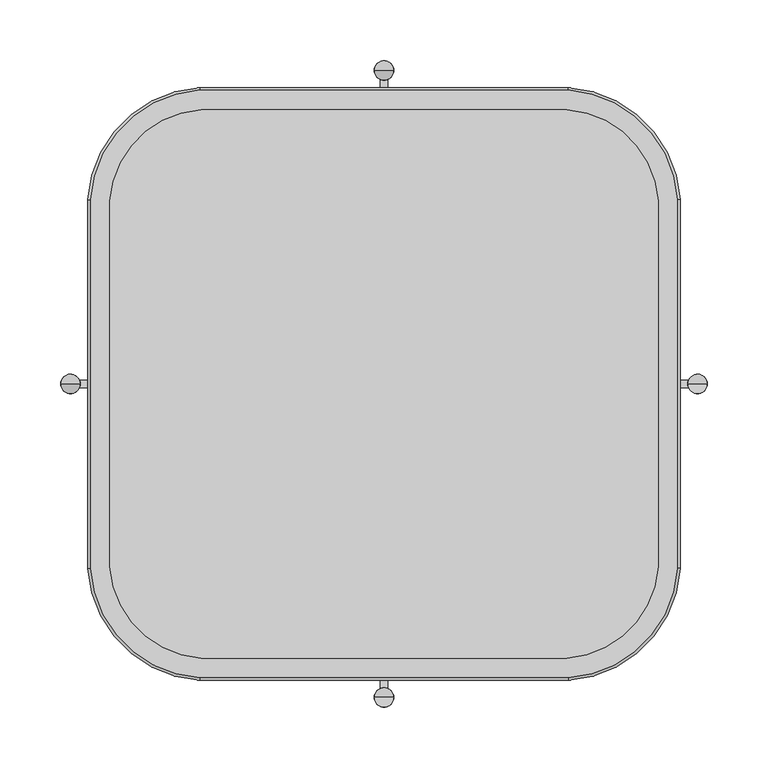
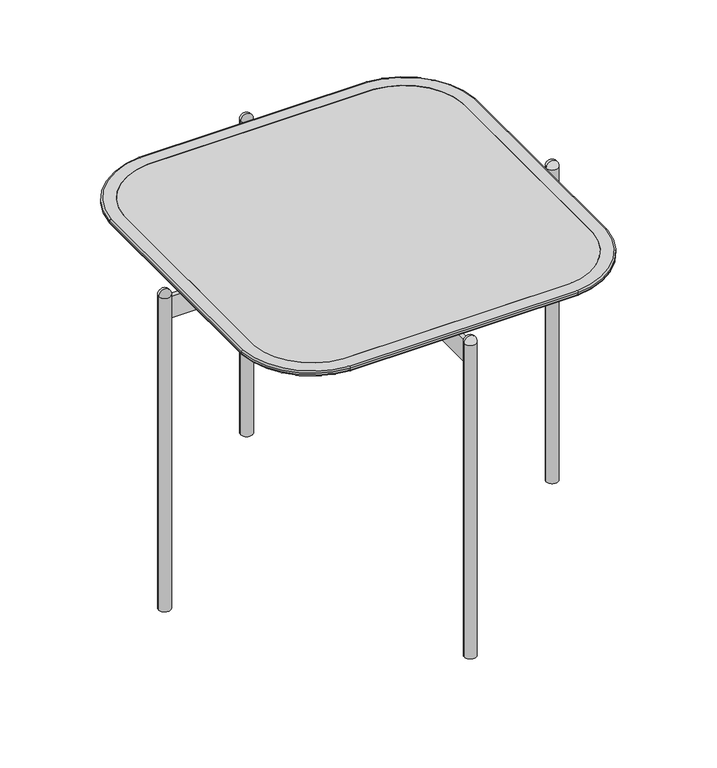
"""IFC4 building model written with IfcOpenShell, lengths in millimetres: furniture geometry, RECTANGULAR TABLE_H=45 : EI145B055050A_F."""

from ifc_helpers import new_model, si_unit, point, frame, frame_2d, origin, origin_with_axes, origin_2d, place, context, project, spatial, polyline, circle_curve, ellipse_curve, trimmed, segment, composite_curve, outline, extrude, source, transform, mapped, element, save
from ifc_brep_helpers import plane_surface, cylinder_surface, revolved_surface, advanced_brep


def furniture_46decb34(model_context):
    return source(origin(), model_context, "Body", "SolidModel", [
        advanced_brep(
        [(-225.6260809, 150.5406369, 437.6939464), (-150.5406368, 225.6260809, 437.6939464), (-150.5406368, 225.6260809, 449.6939464), (-225.6260809, 150.5406369, 449.6939464), (-232.9383111, 151.0330215, 438.0050898), (-151.0330214, 232.9383112, 438.0050898), (-150.9557407, 231.7906426, 437.6939464), (-231.7906425, 150.9557408, 437.6939464), (-242.7967567, 151.6968609, 443.7097555), (-151.6968608, 242.7967567, 443.7097555), (-243.8857957, 151.7701936, 445.4486469), (-151.7701936, 243.8857958, 445.4486469), (-243.8857957, 151.7701936, 447.6939464), (-151.7701936, 243.8857958, 447.6939464), (-241.8903147, 151.6358237, 449.6939464), (-151.6358236, 241.8903147, 449.6939464), (-225.6260809, -150.5406368, 437.6939464), (-225.6260809, -150.5406368, 449.6939464), (-232.9383111, -151.0330214, 438.0050898), (-231.7906425, -150.9557407, 437.6939464), (-242.7967567, -151.6968608, 443.7097555), (-243.8857958, -151.7701936, 445.4486469), (-243.8857958, -151.7701936, 447.6939464), (-241.8903147, -151.6358236, 449.6939464), (-150.5406368, -225.6260809, 437.6939464), (-150.5406368, -225.6260809, 449.6939464), (-151.0330214, -232.9383111, 438.0050898), (-150.9557407, -231.7906425, 437.6939464), (-151.6968608, -242.7967567, 443.7097555), (-151.7701936, -243.8857958, 445.4486469), (-151.7701936, -243.8857958, 447.6939464), (-151.6358236, -241.8903147, 449.6939464), (150.5406369, -225.6260809, 437.6939464), (150.5406369, -225.6260809, 449.6939464), (151.0330214, -232.9383111, 438.0050898), (150.9557407, -231.7906425, 437.6939464), (151.6968608, -242.7967567, 443.7097555), (151.7701936, -243.8857958, 445.4486469), (151.7701936, -243.8857958, 447.6939464), (151.6358236, -241.8903147, 449.6939464), (225.6260809, -150.5406368, 437.6939464), (225.6260809, -150.5406368, 449.6939464), (232.9383112, -151.0330214, 438.0050898), (231.7906426, -150.9557407, 437.6939464), (242.7967567, -151.6968608, 443.7097555), (243.8857958, -151.7701936, 445.4486469), (243.8857958, -151.7701936, 447.6939464), (241.8903147, -151.6358236, 449.6939464), (225.6260809, 150.5406368, 437.6939464), (225.6260809, 150.5406368, 449.6939464), (232.9383112, 151.0330214, 438.0050898), (231.7906426, 150.9557407, 437.6939464), (242.7967567, 151.6968608, 443.7097555), (243.8857958, 151.7701936, 445.4486469), (243.8857958, 151.7701936, 447.6939464), (241.8903147, 151.6358236, 449.6939464), (150.5406368, 225.6260809, 437.6939464), (150.5406368, 225.6260809, 449.6939464), (151.0330214, 232.9383112, 438.0050898), (150.9557407, 231.7906426, 437.6939464), (151.6968608, 242.7967567, 443.7097555), (151.7701936, 243.8857958, 445.4486469), (151.7701936, 243.8857958, 447.6939464), (151.6358236, 241.8903147, 449.6939464)],
        [
            (0, 1, circle_curve(frame((-145.119559, 145.119559, 437.6939464), z_axis=(0.0, 0.0, -1.0), x_axis=(-0.06718498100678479, 0.997740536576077, 0.0)), 80.6888354)),
            (1, 2),
            (2, 3, circle_curve(frame((-145.119559, 145.119559, 449.6939464), z_axis=(0.0, 0.0, 1.0), x_axis=(-0.06718498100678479, 0.997740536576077, 0.0)), 80.6888354)),
            (3, 0),
            (4, 5, circle_curve(frame((-145.119559, 145.119559, 438.0050898), z_axis=(0.0, 0.0, -1.0), x_axis=(-0.06718498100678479, 0.997740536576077, 0.0)), 88.0176248)),
            (5, 6, circle_curve(frame((-150.9557407, 231.7906426, 439.9757328), z_axis=(-0.997740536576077, -0.06718498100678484, 0.0), x_axis=(0.06718498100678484, -0.997740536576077, 0.0)), 2.2817865)),
            (6, 7, circle_curve(frame((-145.119559, 145.119559, 437.6939464), z_axis=(0.0, 0.0, 1.0), x_axis=(-0.06718498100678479, 0.997740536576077, 0.0)), 86.8673572)),
            (7, 4, circle_curve(frame((-231.7906425, 150.9557408, 439.9757328), z_axis=(0.06718498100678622, 0.997740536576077, 0.0), x_axis=(0.997740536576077, -0.06718498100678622, 0.0)), 2.2817865)),
            (8, 9, circle_curve(frame((-145.119559, 145.119559, 443.7097555), z_axis=(0.0, 0.0, -1.0), x_axis=(-0.06718498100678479, 0.997740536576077, 0.0)), 97.8983956)),
            (9, 5),
            (4, 8),
            (10, 11, circle_curve(frame((-145.119559, 145.119559, 445.4486469), z_axis=(0.0, 0.0, -1.0), x_axis=(-0.06718498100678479, 0.997740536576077, 0.0)), 98.9899008)),
            (11, 9, circle_curve(frame((-151.6231258, 241.7017432, 445.6106696), z_axis=(-0.997740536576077, -0.06718498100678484, 0.0), x_axis=(0.06718498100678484, -0.997740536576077, 0.0)), 2.1949866)),
            (8, 10, circle_curve(frame((-241.7017431, 151.6231258, 445.6106696), z_axis=(0.067184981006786, 0.9977405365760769, 0.0), x_axis=(0.9977405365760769, -0.067184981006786, 0.0)), 2.1949866)),
            (12, 13, circle_curve(frame((-145.119559, 145.119559, 447.6939464), z_axis=(0.0, 0.0, -1.0), x_axis=(-0.06718498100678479, 0.997740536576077, 0.0)), 98.9899008)),
            (13, 11),
            (10, 12),
            (14, 15, circle_curve(frame((-145.119559, 145.119559, 449.6939464), z_axis=(0.0, 0.0, -1.0), x_axis=(-0.06718498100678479, 0.997740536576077, 0.0)), 96.9899008)),
            (15, 13, circle_curve(frame((-151.6358236, 241.8903147, 447.6939464), z_axis=(-0.997740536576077, -0.06718498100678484, 0.0), x_axis=(0.06718498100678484, -0.997740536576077, 0.0)), 2.0)),
            (12, 14, circle_curve(frame((-241.8903147, 151.6358237, 447.6939464), z_axis=(0.0671849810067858, 0.9977405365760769, 0.0), x_axis=(0.9977405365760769, -0.0671849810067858, 0.0)), 2.0)),
            (16, 0, circle_curve(frame((2010.0000004, 0.0, 437.6939464), z_axis=(0.0, 0.0, -1.0), x_axis=(-0.9977405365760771, 0.06718498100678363, 0.0)), 2240.6888358)),
            (3, 17, circle_curve(frame((2010.0000004, 0.0, 449.6939464), z_axis=(0.0, 0.0, 1.0), x_axis=(-0.9977405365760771, 0.06718498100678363, 0.0)), 2240.6888358)),
            (17, 16),
            (18, 4, circle_curve(frame((2010.0000004, 0.0, 438.0050898), z_axis=(0.0, 0.0, -1.0), x_axis=(-0.9977405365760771, 0.06718498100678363, 0.0)), 2248.0176252)),
            (7, 19, circle_curve(frame((2010.0000004, 0.0, 437.6939464), z_axis=(0.0, 0.0, 1.0), x_axis=(-0.9977405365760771, 0.06718498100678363, 0.0)), 2246.8673576)),
            (19, 18, circle_curve(frame((-231.7906425, -150.9557407, 439.9757328), z_axis=(-0.0671849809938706, 0.9977405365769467, 0.0), x_axis=(0.9977405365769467, 0.0671849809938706, 0.0)), 2.2817865)),
            (20, 8, circle_curve(frame((2010.0000004, 0.0, 443.7097555), z_axis=(0.0, 0.0, -1.0), x_axis=(-0.9977405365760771, 0.06718498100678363, 0.0)), 2257.898396)),
            (18, 20),
            (21, 10, circle_curve(frame((2010.0000004, 0.0, 445.4486469), z_axis=(0.0, 0.0, -1.0), x_axis=(-0.9977405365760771, 0.06718498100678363, 0.0)), 2258.9899012)),
            (20, 21, circle_curve(frame((-241.7017432, -151.6231257, 445.6106696), z_axis=(-0.06718498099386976, 0.9977405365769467, 0.0), x_axis=(0.9977405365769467, 0.06718498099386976, 0.0)), 2.1949866)),
            (22, 12, circle_curve(frame((2010.0000004, 0.0, 447.6939464), z_axis=(0.0, 0.0, -1.0), x_axis=(-0.9977405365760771, 0.06718498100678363, 0.0)), 2258.9899012)),
            (21, 22),
            (23, 14, circle_curve(frame((2010.0000004, 0.0, 449.6939464), z_axis=(0.0, 0.0, -1.0), x_axis=(-0.9977405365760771, 0.06718498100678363, 0.0)), 2256.9899012)),
            (22, 23, circle_curve(frame((-241.8903147, -151.6358236, 447.6939464), z_axis=(-0.06718498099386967, 0.9977405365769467, 0.0), x_axis=(0.9977405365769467, 0.06718498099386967, 0.0)), 2.0)),
            (24, 16, circle_curve(frame((-145.1195589, -145.1195589, 437.6939464), z_axis=(0.0, 0.0, -1.0), x_axis=(-0.9977405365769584, -0.06718498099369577, 0.0)), 80.6888354)),
            (17, 25, circle_curve(frame((-145.1195589, -145.1195589, 449.6939464), z_axis=(0.0, 0.0, 1.0), x_axis=(-0.9977405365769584, -0.06718498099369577, 0.0)), 80.6888354)),
            (25, 24),
            (26, 18, circle_curve(frame((-145.1195589, -145.1195589, 438.0050898), z_axis=(0.0, 0.0, -1.0), x_axis=(-0.9977405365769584, -0.06718498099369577, 0.0)), 88.0176248)),
            (19, 27, circle_curve(frame((-145.1195589, -145.1195589, 437.6939464), z_axis=(0.0, 0.0, 1.0), x_axis=(-0.9977405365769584, -0.06718498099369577, 0.0)), 86.8673572)),
            (27, 26, circle_curve(frame((-150.9557407, -231.7906425, 439.9757328), z_axis=(-0.9977405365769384, 0.06718498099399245, 0.0), x_axis=(0.06718498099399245, 0.9977405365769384, 0.0)), 2.2817865)),
            (28, 20, circle_curve(frame((-145.1195589, -145.1195589, 443.7097555), z_axis=(0.0, 0.0, -1.0), x_axis=(-0.9977405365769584, -0.06718498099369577, 0.0)), 97.8983956)),
            (26, 28),
            (29, 21, circle_curve(frame((-145.1195589, -145.1195589, 445.4486469), z_axis=(0.0, 0.0, -1.0), x_axis=(-0.9977405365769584, -0.06718498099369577, 0.0)), 98.9899009)),
            (28, 29, circle_curve(frame((-151.6231257, -241.7017432, 445.6106696), z_axis=(-0.9977405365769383, 0.06718498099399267, 0.0), x_axis=(0.06718498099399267, 0.9977405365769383, 0.0)), 2.1949866)),
            (30, 22, circle_curve(frame((-145.1195589, -145.1195589, 447.6939464), z_axis=(0.0, 0.0, -1.0), x_axis=(-0.9977405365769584, -0.06718498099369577, 0.0)), 98.9899009)),
            (29, 30),
            (31, 23, circle_curve(frame((-145.1195589, -145.1195589, 449.6939464), z_axis=(0.0, 0.0, -1.0), x_axis=(-0.9977405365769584, -0.06718498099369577, 0.0)), 96.9899009)),
            (30, 31, circle_curve(frame((-151.6358236, -241.8903147, 447.6939464), z_axis=(-0.9977405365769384, 0.06718498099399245, 0.0), x_axis=(0.06718498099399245, 0.9977405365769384, 0.0)), 2.0)),
            (32, 24, circle_curve(frame((0.0, 2010.0000004, 437.6939464), z_axis=(0.0, 0.0, -1.0), x_axis=(-0.06718498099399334, -0.9977405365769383, 0.0)), 2240.6888358)),
            (25, 33, circle_curve(frame((0.0, 2010.0000004, 449.6939464), z_axis=(0.0, 0.0, 1.0), x_axis=(-0.06718498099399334, -0.9977405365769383, 0.0)), 2240.6888358)),
            (33, 32),
            (34, 26, circle_curve(frame((0.0, 2010.0000004, 438.0050898), z_axis=(0.0, 0.0, -1.0), x_axis=(-0.06718498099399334, -0.9977405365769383, 0.0)), 2248.0176252)),
            (27, 35, circle_curve(frame((0.0, 2010.0000004, 437.6939464), z_axis=(0.0, 0.0, 1.0), x_axis=(-0.06718498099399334, -0.9977405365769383, 0.0)), 2246.8673576)),
            (35, 34, circle_curve(frame((150.9557407, -231.7906425, 439.9757328), z_axis=(-0.997740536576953, -0.06718498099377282, 0.0), x_axis=(-0.06718498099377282, 0.997740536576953, 0.0)), 2.2817865)),
            (36, 28, circle_curve(frame((0.0, 2010.0000004, 443.7097555), z_axis=(0.0, 0.0, -1.0), x_axis=(-0.06718498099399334, -0.9977405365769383, 0.0)), 2257.898396)),
            (34, 36),
            (37, 29, circle_curve(frame((0.0, 2010.0000004, 445.4486469), z_axis=(0.0, 0.0, -1.0), x_axis=(-0.06718498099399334, -0.9977405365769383, 0.0)), 2258.9899012)),
            (36, 37, circle_curve(frame((151.6231258, -241.7017432, 445.6106696), z_axis=(-0.997740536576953, -0.06718498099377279, 0.0), x_axis=(-0.06718498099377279, 0.997740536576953, 0.0)), 2.1949866)),
            (38, 30, circle_curve(frame((0.0, 2010.0000004, 447.6939464), z_axis=(0.0, 0.0, -1.0), x_axis=(-0.06718498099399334, -0.9977405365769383, 0.0)), 2258.9899012)),
            (37, 38),
            (39, 31, circle_curve(frame((0.0, 2010.0000004, 449.6939464), z_axis=(0.0, 0.0, -1.0), x_axis=(-0.06718498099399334, -0.9977405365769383, 0.0)), 2256.9899012)),
            (38, 39, circle_curve(frame((151.6358236, -241.8903147, 447.6939464), z_axis=(-0.997740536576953, -0.06718498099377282, 0.0), x_axis=(-0.06718498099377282, 0.997740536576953, 0.0)), 2.0)),
            (40, 32, circle_curve(frame((145.119559, -145.1195589, 437.6939464), z_axis=(0.0, 0.0, -1.0), x_axis=(0.06718498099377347, -0.997740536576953, 0.0)), 80.6888354)),
            (33, 41, circle_curve(frame((145.119559, -145.1195589, 449.6939464), z_axis=(0.0, 0.0, 1.0), x_axis=(0.06718498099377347, -0.997740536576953, 0.0)), 80.6888354)),
            (41, 40),
            (42, 34, circle_curve(frame((145.119559, -145.1195589, 438.0050898), z_axis=(0.0, 0.0, -1.0), x_axis=(0.06718498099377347, -0.997740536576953, 0.0)), 88.0176248)),
            (35, 43, circle_curve(frame((145.119559, -145.1195589, 437.6939464), z_axis=(0.0, 0.0, 1.0), x_axis=(0.06718498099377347, -0.997740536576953, 0.0)), 86.8673572)),
            (43, 42, circle_curve(frame((231.7906426, -150.9557407, 439.9757328), z_axis=(-0.06718498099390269, -0.9977405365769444, 0.0), x_axis=(-0.9977405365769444, 0.06718498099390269, 0.0)), 2.2817865)),
            (44, 36, circle_curve(frame((145.119559, -145.1195589, 443.7097555), z_axis=(0.0, 0.0, -1.0), x_axis=(0.06718498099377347, -0.997740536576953, 0.0)), 97.8983956)),
            (42, 44),
            (45, 37, circle_curve(frame((145.119559, -145.1195589, 445.4486469), z_axis=(0.0, 0.0, -1.0), x_axis=(0.06718498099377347, -0.997740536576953, 0.0)), 98.9899009)),
            (44, 45, circle_curve(frame((241.7017432, -151.6231257, 445.6106696), z_axis=(-0.06718498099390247, -0.9977405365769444, 0.0), x_axis=(-0.9977405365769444, 0.06718498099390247, 0.0)), 2.1949866)),
            (46, 38, circle_curve(frame((145.119559, -145.1195589, 447.6939464), z_axis=(0.0, 0.0, -1.0), x_axis=(0.06718498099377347, -0.997740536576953, 0.0)), 98.9899009)),
            (45, 46),
            (47, 39, circle_curve(frame((145.119559, -145.1195589, 449.6939464), z_axis=(0.0, 0.0, -1.0), x_axis=(0.06718498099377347, -0.997740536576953, 0.0)), 96.9899009)),
            (46, 47, circle_curve(frame((241.8903147, -151.6358236, 447.6939464), z_axis=(-0.06718498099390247, -0.9977405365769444, 0.0), x_axis=(-0.9977405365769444, 0.06718498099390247, 0.0)), 2.0)),
            (48, 40, circle_curve(frame((-2010.0000004, 0.0, 437.6939464), z_axis=(0.0, 0.0, -1.0), x_axis=(0.9977405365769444, -0.06718498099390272, 0.0)), 2240.6888358)),
            (41, 49, circle_curve(frame((-2010.0000004, 0.0, 449.6939464), z_axis=(0.0, 0.0, 1.0), x_axis=(0.9977405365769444, -0.06718498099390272, 0.0)), 2240.6888358)),
            (49, 48),
            (50, 42, circle_curve(frame((-2010.0000004, 0.0, 438.0050898), z_axis=(0.0, 0.0, -1.0), x_axis=(0.9977405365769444, -0.06718498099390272, 0.0)), 2248.0176252)),
            (43, 51, circle_curve(frame((-2010.0000004, 0.0, 437.6939464), z_axis=(0.0, 0.0, 1.0), x_axis=(0.9977405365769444, -0.06718498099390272, 0.0)), 2246.8673576)),
            (51, 50, circle_curve(frame((231.7906426, 150.9557407, 439.9757328), z_axis=(0.06718498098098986, -0.9977405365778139, 0.0), x_axis=(-0.9977405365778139, -0.06718498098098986, 0.0)), 2.2817865)),
            (52, 44, circle_curve(frame((-2010.0000004, 0.0, 443.7097555), z_axis=(0.0, 0.0, -1.0), x_axis=(0.9977405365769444, -0.06718498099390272, 0.0)), 2257.898396)),
            (50, 52),
            (53, 45, circle_curve(frame((-2010.0000004, 0.0, 445.4486469), z_axis=(0.0, 0.0, -1.0), x_axis=(0.9977405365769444, -0.06718498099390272, 0.0)), 2258.9899012)),
            (52, 53, circle_curve(frame((241.7017432, 151.6231258, 445.6106696), z_axis=(0.06718498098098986, -0.9977405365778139, 0.0), x_axis=(-0.9977405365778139, -0.06718498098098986, 0.0)), 2.1949866)),
            (54, 46, circle_curve(frame((-2010.0000004, 0.0, 447.6939464), z_axis=(0.0, 0.0, -1.0), x_axis=(0.9977405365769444, -0.06718498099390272, 0.0)), 2258.9899012)),
            (53, 54),
            (55, 47, circle_curve(frame((-2010.0000004, 0.0, 449.6939464), z_axis=(0.0, 0.0, -1.0), x_axis=(0.9977405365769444, -0.06718498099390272, 0.0)), 2256.9899012)),
            (54, 55, circle_curve(frame((241.8903147, 151.6358236, 447.6939464), z_axis=(0.06718498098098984, -0.9977405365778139, 0.0), x_axis=(-0.9977405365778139, -0.06718498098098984, 0.0)), 2.0)),
            (56, 48, circle_curve(frame((145.119559, 145.119559, 437.6939464), z_axis=(0.0, 0.0, -1.0), x_axis=(0.9977405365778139, 0.06718498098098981, 0.0)), 80.6888354)),
            (49, 57, circle_curve(frame((145.119559, 145.119559, 449.6939464), z_axis=(0.0, 0.0, 1.0), x_axis=(0.9977405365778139, 0.06718498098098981, 0.0)), 80.6888354)),
            (57, 56),
            (58, 50, circle_curve(frame((145.119559, 145.119559, 438.0050898), z_axis=(0.0, 0.0, -1.0), x_axis=(0.9977405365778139, 0.06718498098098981, 0.0)), 88.0176248)),
            (51, 59, circle_curve(frame((145.119559, 145.119559, 437.6939464), z_axis=(0.0, 0.0, 1.0), x_axis=(0.9977405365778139, 0.06718498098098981, 0.0)), 86.8673573)),
            (59, 58, circle_curve(frame((150.9557407, 231.7906426, 439.9757328), z_axis=(0.997740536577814, -0.06718498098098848, 0.0), x_axis=(-0.06718498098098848, -0.997740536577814, 0.0)), 2.2817865)),
            (60, 52, circle_curve(frame((145.119559, 145.119559, 443.7097555), z_axis=(0.0, 0.0, -1.0), x_axis=(0.9977405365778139, 0.06718498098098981, 0.0)), 97.8983956)),
            (58, 60),
            (61, 53, circle_curve(frame((145.119559, 145.119559, 445.4486469), z_axis=(0.0, 0.0, -1.0), x_axis=(0.9977405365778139, 0.06718498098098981, 0.0)), 98.9899009)),
            (60, 61, circle_curve(frame((151.6231258, 241.7017432, 445.6106696), z_axis=(0.997740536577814, -0.06718498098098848, 0.0), x_axis=(-0.06718498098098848, -0.997740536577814, 0.0)), 2.1949866)),
            (62, 54, circle_curve(frame((145.119559, 145.119559, 447.6939464), z_axis=(0.0, 0.0, -1.0), x_axis=(0.9977405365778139, 0.06718498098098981, 0.0)), 98.9899009)),
            (61, 62),
            (63, 55, circle_curve(frame((145.119559, 145.119559, 449.6939464), z_axis=(0.0, 0.0, -1.0), x_axis=(0.9977405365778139, 0.06718498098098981, 0.0)), 96.9899009)),
            (62, 63, circle_curve(frame((151.6358236, 241.8903147, 447.6939464), z_axis=(0.997740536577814, -0.0671849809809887, 0.0), x_axis=(-0.0671849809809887, -0.997740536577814, 0.0)), 2.0)),
            (1, 56, circle_curve(frame((0.0, -2010.0000004, 437.6939464), z_axis=(0.0, 0.0, -1.0), x_axis=(0.06718498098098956, 0.9977405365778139, 0.0)), 2240.6888358)),
            (57, 2, circle_curve(frame((0.0, -2010.0000004, 449.6939464), z_axis=(0.0, 0.0, 1.0), x_axis=(0.06718498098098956, 0.9977405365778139, 0.0)), 2240.6888358)),
            (6, 59, circle_curve(frame((0.0, -2010.0000004, 437.6939464), z_axis=(0.0, 0.0, -1.0), x_axis=(0.06718498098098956, 0.9977405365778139, 0.0)), 2246.8673576)),
            (5, 58, circle_curve(frame((0.0, -2010.0000004, 438.0050898), z_axis=(0.0, 0.0, -1.0), x_axis=(0.06718498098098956, 0.9977405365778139, 0.0)), 2248.0176252)),
            (9, 60, circle_curve(frame((0.0, -2010.0000004, 443.7097555), z_axis=(0.0, 0.0, -1.0), x_axis=(0.06718498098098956, 0.9977405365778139, 0.0)), 2257.898396)),
            (11, 61, circle_curve(frame((0.0, -2010.0000004, 445.4486469), z_axis=(0.0, 0.0, -1.0), x_axis=(0.06718498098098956, 0.9977405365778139, 0.0)), 2258.9899012)),
            (13, 62, circle_curve(frame((0.0, -2010.0000004, 447.6939464), z_axis=(0.0, 0.0, -1.0), x_axis=(0.06718498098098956, 0.9977405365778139, 0.0)), 2258.9899012)),
            (15, 63, circle_curve(frame((0.0, -2010.0000004, 449.6939464), z_axis=(0.0, 0.0, -1.0), x_axis=(0.06718498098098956, 0.9977405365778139, 0.0)), 2256.9899012)),
        ],
        [
            revolved_surface(polyline([(-150.54063687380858, 225.62608092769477, 449.6939464), (-150.54063687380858, 225.62608092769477, 437.6939464)]), (-145.119559, 145.119559, 437.6939464), (0.0, 0.0, 1.0)),
            revolved_surface(trimmed(ellipse_curve(frame((-150.9557407, 231.7906426, 439.9757328), z_axis=(0.997740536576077, 0.06718498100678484, 0.0), x_axis=(0.06718498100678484, -0.997740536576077, 0.0)), 2.2817865, 2.2817865), [point((-150.9557407, 231.7906426, 437.6939464))], [point((-151.0330214, 232.9383112, 438.0050898))], True, "CARTESIAN"), (-145.119559, 145.119559, 437.6939464), (0.0, 0.0, 1.0)),
            revolved_surface(polyline([(-151.0330214, 232.9383112, 438.0050898), (-151.6968608, 242.7967567, 443.7097555)]), (-145.119559, 145.119559, 437.6939464), (0.0, 0.0, 1.0)),
            revolved_surface(trimmed(ellipse_curve(frame((-151.6231258, 241.7017432, 445.6106696), z_axis=(0.997740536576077, 0.06718498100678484, 0.0), x_axis=(0.06718498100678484, -0.997740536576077, 0.0)), 2.1949866, 2.1949866), [point((-151.6968608, 242.7967567, 443.7097555))], [point((-151.7701936, 243.8857958, 445.4486469))], True, "CARTESIAN"), (-145.119559, 145.119559, 437.6939464), (0.0, 0.0, 1.0)),
            cylinder_surface(frame((-145.119559, 145.119559, 437.6939464), z_axis=(0.0, 0.0, 1.0), x_axis=(-0.06718498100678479, 0.997740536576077, 0.0)), 98.9899008),
            revolved_surface(trimmed(ellipse_curve(frame((-151.6358236, 241.8903147, 447.6939464), z_axis=(0.997740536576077, 0.06718498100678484, 0.0), x_axis=(0.06718498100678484, -0.997740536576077, 0.0)), 2.0, 2.0), [point((-151.7701936, 243.8857958, 447.6939464))], [point((-151.6358236, 241.8903147, 449.6939464))], True, "CARTESIAN"), (-145.119559, 145.119559, 437.6939464), (0.0, 0.0, 1.0)),
            revolved_surface(polyline([(-225.6260809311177, 150.54063687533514, 449.6939464), (-225.6260809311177, 150.54063687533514, 437.6939464)]), (2010.0000004, 0.0, 437.6939464), (0.0, 0.0, 1.0)),
            revolved_surface(trimmed(ellipse_curve(frame((-231.7906425, 150.9557408, 439.9757328), z_axis=(0.06718498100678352, 0.9977405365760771, 0.0), x_axis=(0.9977405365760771, -0.06718498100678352, 0.0)), 2.2817865, 2.2817865), [point((-231.7906425, 150.9557408, 437.6939464))], [point((-232.9383111, 151.0330215, 438.0050898))], True, "CARTESIAN"), (2010.0000004, 0.0, 437.6939464), (0.0, 0.0, 1.0)),
            revolved_surface(polyline([(-232.9383111, 151.0330215, 438.0050898), (-242.7967567, 151.6968609, 443.7097555)]), (2010.0000004, 0.0, 437.6939464), (0.0, 0.0, 1.0)),
            revolved_surface(trimmed(ellipse_curve(frame((-241.7017431, 151.6231258, 445.6106696), z_axis=(0.06718498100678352, 0.9977405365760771, 0.0), x_axis=(0.9977405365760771, -0.06718498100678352, 0.0)), 2.1949866, 2.1949866), [point((-242.7967567, 151.6968609, 443.7097555))], [point((-243.8857957, 151.7701936, 445.4486469))], True, "CARTESIAN"), (2010.0000004, 0.0, 437.6939464), (0.0, 0.0, 1.0)),
            cylinder_surface(frame((2010.0000004, 0.0, 437.6939464), z_axis=(0.0, 0.0, 1.0), x_axis=(-0.9977405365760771, 0.06718498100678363, 0.0)), 2258.9899012),
            revolved_surface(trimmed(ellipse_curve(frame((-241.8903147, 151.6358237, 447.6939464), z_axis=(0.06718498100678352, 0.9977405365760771, 0.0), x_axis=(0.9977405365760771, -0.06718498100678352, 0.0)), 2.0, 2.0), [point((-243.8857957, 151.7701936, 447.6939464))], [point((-241.8903147, 151.6358237, 449.6939464))], True, "CARTESIAN"), (2010.0000004, 0.0, 437.6939464), (0.0, 0.0, 1.0)),
            revolved_surface(polyline([(-225.62608082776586, -150.54063677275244, 449.6939464), (-225.62608082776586, -150.54063677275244, 437.6939464)]), (-145.1195589, -145.1195589, 437.6939464), (0.0, 0.0, 1.0)),
            revolved_surface(trimmed(ellipse_curve(frame((-231.7906425, -150.9557407, 439.9757328), z_axis=(-0.0671849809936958, 0.9977405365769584, 0.0), x_axis=(0.9977405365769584, 0.0671849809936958, 0.0)), 2.2817865, 2.2817865), [point((-231.7906425, -150.9557407, 437.6939464))], [point((-232.9383111, -151.0330214, 438.0050898))], True, "CARTESIAN"), (-145.1195589, -145.1195589, 437.6939464), (0.0, 0.0, 1.0)),
            revolved_surface(polyline([(-232.9383111, -151.0330214, 438.0050898), (-242.7967567, -151.6968608, 443.7097555)]), (-145.1195589, -145.1195589, 437.6939464), (0.0, 0.0, 1.0)),
            revolved_surface(trimmed(ellipse_curve(frame((-241.7017432, -151.6231257, 445.6106696), z_axis=(-0.0671849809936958, 0.9977405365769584, 0.0), x_axis=(0.9977405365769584, 0.0671849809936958, 0.0)), 2.1949866, 2.1949866), [point((-242.7967567, -151.6968608, 443.7097555))], [point((-243.8857958, -151.7701936, 445.4486469))], True, "CARTESIAN"), (-145.1195589, -145.1195589, 437.6939464), (0.0, 0.0, 1.0)),
            cylinder_surface(frame((-145.1195589, -145.1195589, 437.6939464), z_axis=(0.0, 0.0, 1.0), x_axis=(-0.9977405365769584, -0.06718498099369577, 0.0)), 98.9899009),
            revolved_surface(trimmed(ellipse_curve(frame((-241.8903147, -151.6358236, 447.6939464), z_axis=(-0.0671849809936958, 0.9977405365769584, 0.0), x_axis=(0.9977405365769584, 0.0671849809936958, 0.0)), 2.0, 2.0), [point((-243.8857958, -151.7701936, 447.6939464))], [point((-241.8903147, -151.6358236, 449.6939464))], True, "CARTESIAN"), (-145.1195589, -145.1195589, 437.6939464), (0.0, 0.0, 1.0)),
            revolved_surface(polyline([(-150.54063684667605, -225.6260809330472, 449.6939464), (-150.54063684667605, -225.6260809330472, 437.6939464)]), (0.0, 2010.0000004, 437.6939464), (0.0, 0.0, 1.0)),
            revolved_surface(trimmed(ellipse_curve(frame((-150.9557407, -231.7906425, 439.9757328), z_axis=(-0.9977405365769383, 0.06718498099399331, 0.0), x_axis=(0.06718498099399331, 0.9977405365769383, 0.0)), 2.2817865, 2.2817865), [point((-150.9557407, -231.7906425, 437.6939464))], [point((-151.0330214, -232.9383111, 438.0050898))], True, "CARTESIAN"), (0.0, 2010.0000004, 437.6939464), (0.0, 0.0, 1.0)),
            revolved_surface(polyline([(-151.0330214, -232.9383111, 438.0050898), (-151.6968608, -242.7967567, 443.7097555)]), (0.0, 2010.0000004, 437.6939464), (0.0, 0.0, 1.0)),
            revolved_surface(trimmed(ellipse_curve(frame((-151.6231257, -241.7017432, 445.6106696), z_axis=(-0.9977405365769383, 0.06718498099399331, 0.0), x_axis=(0.06718498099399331, 0.9977405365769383, 0.0)), 2.1949866, 2.1949866), [point((-151.6968608, -242.7967567, 443.7097555))], [point((-151.7701936, -243.8857958, 445.4486469))], True, "CARTESIAN"), (0.0, 2010.0000004, 437.6939464), (0.0, 0.0, 1.0)),
            cylinder_surface(frame((0.0, 2010.0000004, 437.6939464), z_axis=(0.0, 0.0, 1.0), x_axis=(-0.06718498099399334, -0.9977405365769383, 0.0)), 2258.9899012),
            revolved_surface(trimmed(ellipse_curve(frame((-151.6358236, -241.8903147, 447.6939464), z_axis=(-0.9977405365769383, 0.06718498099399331, 0.0), x_axis=(0.06718498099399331, 0.9977405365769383, 0.0)), 2.0, 2.0), [point((-151.7701936, -243.8857958, 447.6939464))], [point((-151.6358236, -241.8903147, 449.6939464))], True, "CARTESIAN"), (0.0, 2010.0000004, 437.6939464), (0.0, 0.0, 1.0)),
            revolved_surface(polyline([(150.54063687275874, -225.62608082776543, 449.6939464), (150.54063687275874, -225.62608082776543, 437.6939464)]), (145.119559, -145.1195589, 437.6939464), (0.0, 0.0, 1.0)),
            revolved_surface(trimmed(ellipse_curve(frame((150.9557407, -231.7906425, 439.9757328), z_axis=(-0.997740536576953, -0.06718498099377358, 0.0), x_axis=(-0.06718498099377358, 0.997740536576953, 0.0)), 2.2817865, 2.2817865), [point((150.9557407, -231.7906425, 437.6939464))], [point((151.0330214, -232.9383111, 438.0050898))], True, "CARTESIAN"), (145.119559, -145.1195589, 437.6939464), (0.0, 0.0, 1.0)),
            revolved_surface(polyline([(151.0330214, -232.9383111, 438.0050898), (151.6968608, -242.7967567, 443.7097555)]), (145.119559, -145.1195589, 437.6939464), (0.0, 0.0, 1.0)),
            revolved_surface(trimmed(ellipse_curve(frame((151.6231258, -241.7017432, 445.6106696), z_axis=(-0.997740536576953, -0.06718498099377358, 0.0), x_axis=(-0.06718498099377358, 0.997740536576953, 0.0)), 2.1949866, 2.1949866), [point((151.6968608, -242.7967567, 443.7097555))], [point((151.7701936, -243.8857958, 445.4486469))], True, "CARTESIAN"), (145.119559, -145.1195589, 437.6939464), (0.0, 0.0, 1.0)),
            cylinder_surface(frame((145.119559, -145.1195589, 437.6939464), z_axis=(0.0, 0.0, 1.0), x_axis=(0.06718498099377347, -0.997740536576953, 0.0)), 98.9899009),
            revolved_surface(trimmed(ellipse_curve(frame((151.6358236, -241.8903147, 447.6939464), z_axis=(-0.997740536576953, -0.06718498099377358, 0.0), x_axis=(-0.06718498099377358, 0.997740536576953, 0.0)), 2.0, 2.0), [point((151.7701936, -243.8857958, 447.6939464))], [point((151.6358236, -241.8903147, 449.6939464))], True, "CARTESIAN"), (145.119559, -145.1195589, 437.6939464), (0.0, 0.0, 1.0)),
            revolved_surface(polyline([(225.62608093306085, -150.540636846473, 449.6939464), (225.62608093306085, -150.540636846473, 437.6939464)]), (-2010.0000004, 0.0, 437.6939464), (0.0, 0.0, 1.0)),
            revolved_surface(trimmed(ellipse_curve(frame((231.7906426, -150.9557407, 439.9757328), z_axis=(-0.06718498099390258, -0.9977405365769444, 0.0), x_axis=(-0.9977405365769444, 0.06718498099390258, 0.0)), 2.2817865, 2.2817865), [point((231.7906426, -150.9557407, 437.6939464))], [point((232.9383112, -151.0330214, 438.0050898))], True, "CARTESIAN"), (-2010.0000004, 0.0, 437.6939464), (0.0, 0.0, 1.0)),
            revolved_surface(polyline([(232.9383112, -151.0330214, 438.0050898), (242.7967567, -151.6968608, 443.7097555)]), (-2010.0000004, 0.0, 437.6939464), (0.0, 0.0, 1.0)),
            revolved_surface(trimmed(ellipse_curve(frame((241.7017432, -151.6231257, 445.6106696), z_axis=(-0.06718498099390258, -0.9977405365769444, 0.0), x_axis=(-0.9977405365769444, 0.06718498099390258, 0.0)), 2.1949866, 2.1949866), [point((242.7967567, -151.6968608, 443.7097555))], [point((243.8857958, -151.7701936, 445.4486469))], True, "CARTESIAN"), (-2010.0000004, 0.0, 437.6939464), (0.0, 0.0, 1.0)),
            cylinder_surface(frame((-2010.0000004, 0.0, 437.6939464), z_axis=(0.0, 0.0, 1.0), x_axis=(0.9977405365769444, -0.06718498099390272, 0.0)), 2258.9899012),
            revolved_surface(trimmed(ellipse_curve(frame((241.8903147, -151.6358236, 447.6939464), z_axis=(-0.06718498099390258, -0.9977405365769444, 0.0), x_axis=(-0.9977405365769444, 0.06718498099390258, 0.0)), 2.0, 2.0), [point((243.8857958, -151.7701936, 447.6939464))], [point((241.8903147, -151.6358236, 449.6939464))], True, "CARTESIAN"), (-2010.0000004, 0.0, 437.6939464), (0.0, 0.0, 1.0)),
            revolved_surface(polyline([(225.62608092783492, 150.54063687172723, 449.6939464), (225.62608092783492, 150.54063687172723, 437.6939464)]), (145.119559, 145.119559, 437.6939464), (0.0, 0.0, 1.0)),
            revolved_surface(trimmed(ellipse_curve(frame((231.7906426, 150.9557407, 439.9757328), z_axis=(0.06718498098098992, -0.9977405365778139, 0.0), x_axis=(-0.9977405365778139, -0.06718498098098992, 0.0)), 2.2817865, 2.2817865), [point((231.7906426, 150.9557407, 437.6939464))], [point((232.9383112, 151.0330214, 438.0050898))], True, "CARTESIAN"), (145.119559, 145.119559, 437.6939464), (0.0, 0.0, 1.0)),
            revolved_surface(polyline([(232.9383112, 151.0330214, 438.0050898), (242.7967567, 151.6968608, 443.7097555)]), (145.119559, 145.119559, 437.6939464), (0.0, 0.0, 1.0)),
            revolved_surface(trimmed(ellipse_curve(frame((241.7017432, 151.6231258, 445.6106696), z_axis=(0.06718498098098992, -0.9977405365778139, 0.0), x_axis=(-0.9977405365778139, -0.06718498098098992, 0.0)), 2.1949866, 2.1949866), [point((242.7967567, 151.6968608, 443.7097555))], [point((243.8857958, 151.7701936, 445.4486469))], True, "CARTESIAN"), (145.119559, 145.119559, 437.6939464), (0.0, 0.0, 1.0)),
            cylinder_surface(frame((145.119559, 145.119559, 437.6939464), z_axis=(0.0, 0.0, 1.0), x_axis=(0.9977405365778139, 0.06718498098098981, 0.0)), 98.9899009),
            revolved_surface(trimmed(ellipse_curve(frame((241.8903147, 151.6358236, 447.6939464), z_axis=(0.06718498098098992, -0.9977405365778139, 0.0), x_axis=(-0.9977405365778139, -0.06718498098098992, 0.0)), 2.0, 2.0), [point((243.8857958, 151.7701936, 447.6939464))], [point((241.8903147, 151.6358236, 449.6939464))], True, "CARTESIAN"), (145.119559, 145.119559, 437.6939464), (0.0, 0.0, 1.0)),
            revolved_surface(polyline([(150.54063681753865, 225.62608093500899, 449.6939464), (150.54063681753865, 225.62608093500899, 437.6939464)]), (0.0, -2010.0000004, 437.6939464), (0.0, 0.0, 1.0)),
            plane_surface(frame((0.0, -2010.0000004, 437.6939464), z_axis=(0.0, 0.0, -1.0), x_axis=(0.06718498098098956, 0.9977405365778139, 0.0))),
            revolved_surface(trimmed(ellipse_curve(frame((150.9557407, 231.7906426, 439.9757328), z_axis=(0.9977405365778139, -0.06718498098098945, 0.0), x_axis=(-0.06718498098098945, -0.9977405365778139, 0.0)), 2.2817865, 2.2817865), [point((150.9557407, 231.7906426, 437.6939464))], [point((151.0330214, 232.9383112, 438.0050898))], True, "CARTESIAN"), (0.0, -2010.0000004, 437.6939464), (0.0, 0.0, 1.0)),
            revolved_surface(polyline([(151.0330214, 232.9383112, 438.0050898), (151.6968608, 242.7967567, 443.7097555)]), (0.0, -2010.0000004, 437.6939464), (0.0, 0.0, 1.0)),
            revolved_surface(trimmed(ellipse_curve(frame((151.6231258, 241.7017432, 445.6106696), z_axis=(0.9977405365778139, -0.06718498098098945, 0.0), x_axis=(-0.06718498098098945, -0.9977405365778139, 0.0)), 2.1949866, 2.1949866), [point((151.6968608, 242.7967567, 443.7097555))], [point((151.7701936, 243.8857958, 445.4486469))], True, "CARTESIAN"), (0.0, -2010.0000004, 437.6939464), (0.0, 0.0, 1.0)),
            cylinder_surface(frame((0.0, -2010.0000004, 437.6939464), z_axis=(0.0, 0.0, 1.0), x_axis=(0.06718498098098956, 0.9977405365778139, 0.0)), 2258.9899012),
            revolved_surface(trimmed(ellipse_curve(frame((151.6358236, 241.8903147, 447.6939464), z_axis=(0.9977405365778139, -0.06718498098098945, 0.0), x_axis=(-0.06718498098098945, -0.9977405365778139, 0.0)), 2.0, 2.0), [point((151.7701936, 243.8857958, 447.6939464))], [point((151.6358236, 241.8903147, 449.6939464))], True, "CARTESIAN"), (0.0, -2010.0000004, 437.6939464), (0.0, 0.0, 1.0)),
            plane_surface(frame((0.0, -2010.0000004, 449.6939464), z_axis=(0.0, 0.0, 1.0), x_axis=(0.06718498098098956, 0.9977405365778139, 0.0))),
        ],
        [
            (0, [[1, 2, 3, 4]]),
            (1, [[5, 6, 7, 8]]),
            (2, [[9, 10, -5, 11]]),
            (3, [[12, 13, -9, 14]]),
            (4, [[15, 16, -12, 17]]),
            (5, [[18, 19, -15, 20]]),
            (6, [[21, -4, 22, 23]]),
            (7, [[24, -8, 25, 26]]),
            (8, [[27, -11, -24, 28]]),
            (9, [[29, -14, -27, 30]]),
            (10, [[31, -17, -29, 32]]),
            (11, [[33, -20, -31, 34]]),
            (12, [[35, -23, 36, 37]]),
            (13, [[38, -26, 39, 40]]),
            (14, [[41, -28, -38, 42]]),
            (15, [[43, -30, -41, 44]]),
            (16, [[45, -32, -43, 46]]),
            (17, [[47, -34, -45, 48]]),
            (18, [[49, -37, 50, 51]]),
            (19, [[52, -40, 53, 54]]),
            (20, [[55, -42, -52, 56]]),
            (21, [[57, -44, -55, 58]]),
            (22, [[59, -46, -57, 60]]),
            (23, [[61, -48, -59, 62]]),
            (24, [[63, -51, 64, 65]]),
            (25, [[66, -54, 67, 68]]),
            (26, [[69, -56, -66, 70]]),
            (27, [[71, -58, -69, 72]]),
            (28, [[73, -60, -71, 74]]),
            (29, [[75, -62, -73, 76]]),
            (30, [[77, -65, 78, 79]]),
            (31, [[80, -68, 81, 82]]),
            (32, [[83, -70, -80, 84]]),
            (33, [[85, -72, -83, 86]]),
            (34, [[87, -74, -85, 88]]),
            (35, [[89, -76, -87, 90]]),
            (36, [[91, -79, 92, 93]]),
            (37, [[94, -82, 95, 96]]),
            (38, [[97, -84, -94, 98]]),
            (39, [[99, -86, -97, 100]]),
            (40, [[101, -88, -99, 102]]),
            (41, [[103, -90, -101, 104]]),
            (42, [[105, -93, 106, -2]]),
            (43, [[107, -95, -81, -67, -53, -39, -25, -7], [-77, -91, -105, -1, -21, -35, -49, -63]]),
            (44, [[108, -96, -107, -6]]),
            (45, [[109, -98, -108, -10]]),
            (46, [[110, -100, -109, -13]]),
            (47, [[111, -102, -110, -16]]),
            (48, [[112, -104, -111, -19]]),
            (49, [[-89, -103, -112, -18, -33, -47, -61, -75], [-106, -92, -78, -64, -50, -36, -22, -3]]),
        ],
    ),
        extrude(outline(composite_curve([segment(trimmed(circle_curve(frame_2d((-145.119559, 145.119559)), 80.69), [point((-225.6272429, 150.5407151))], [point((-150.5407151, 225.6272429))], False, "CARTESIAN"), True, "CONTINUOUS"), segment(trimmed(circle_curve(frame_2d((0.0, -2010.0000004)), 2240.6900004), [point((-150.5407151, 225.6272429))], [point((150.5407151, 225.6272429))], False, "CARTESIAN"), True, "CONTINUOUS"), segment(trimmed(circle_curve(frame_2d((145.119559, 145.119559)), 80.6900001), [point((150.5407151, 225.6272429))], [point((225.6272429, 150.5407151))], False, "CARTESIAN"), True, "CONTINUOUS"), segment(trimmed(circle_curve(frame_2d((-2010.0000004, 0.0)), 2240.6900004), [point((225.6272429, 150.5407151))], [point((225.6272429, -150.5407151))], False, "CARTESIAN"), True, "CONTINUOUS"), segment(trimmed(circle_curve(frame_2d((145.119559, -145.1195589)), 80.69), [point((225.6272429, -150.5407151))], [point((150.5407151, -225.6272429))], False, "CARTESIAN"), True, "CONTINUOUS"), segment(trimmed(circle_curve(frame_2d((0.0, 2010.0000004)), 2240.6900004), [point((150.5407151, -225.6272429))], [point((-150.5407151, -225.6272429))], False, "CARTESIAN"), True, "CONTINUOUS"), segment(trimmed(circle_curve(frame_2d((-145.1195589, -145.1195589)), 80.69), [point((-150.5407151, -225.6272429))], [point((-225.6272429, -150.5407151))], False, "CARTESIAN"), True, "CONTINUOUS"), segment(trimmed(circle_curve(frame_2d((2010.0000004, 0.0)), 2240.6900004), [point((-225.6272429, -150.5407151))], [point((-225.6272429, 150.5407151))], False, "CARTESIAN"), True, "CONTINUOUS")], self_intersect=False)), frame((0.0, 0.0, 437.6939464), z_axis=(0.0, 0.0, 1.0), x_axis=(1.0, 0.0, 0.0)), (0.0, 0.0, 1.0), 12.0),
        advanced_brep(
        [(-8.0, -257.95, 441.1666667), (8.0, -257.95, 441.1666667), (0.0, -257.95, 449.1666667), (0.0, -257.95, 441.1666667)],
        [
            (0, 1, circle_curve(frame((0.0, -257.95, 441.1666667), z_axis=(0.0, 0.0, 1.0), x_axis=(1.0, 0.0, 0.0)), 8.0)),
            (1, 2, circle_curve(frame((0.0, -257.95, 441.1666667), z_axis=(0.0, -1.0, 0.0), x_axis=(1.0, 0.0, 0.0)), 8.0)),
            (2, 0, circle_curve(frame((0.0, -257.95, 441.1666667), z_axis=(0.0, -1.0, 0.0), x_axis=(-1.0, 0.0, 0.0)), 8.0)),
            (1, 0, circle_curve(frame((0.0, -257.95, 441.1666667), z_axis=(0.0, 0.0, 1.0), x_axis=(1.0, 0.0, 0.0)), 8.0)),
            (3, 1),
            (0, 3),
        ],
        [
            revolved_surface(trimmed(ellipse_curve(frame((0.0, -257.95, 441.1666667), z_axis=(0.0, 1.0, 0.0), x_axis=(1.0, 0.0, 0.0)), 8.0, 8.0), [point((0.0, -257.95, 449.1666667))], [point((8.0, -257.95, 441.1666667))], True, "CARTESIAN"), (0.0, -257.95, 2638.4), (0.0, 0.0, -1.0)),
            plane_surface(frame((0.0, -257.95, 441.1666667), z_axis=(0.0, 0.0, -1.0), x_axis=(1.0, 0.0, 0.0))),
        ],
        [
            (0, [[1, 2, 3]]),
            (0, [[4, -3, -2]]),
            (1, [[5, -1, 6]]),
            (1, [[-6, -4, -5]]),
        ],
    ),
        advanced_brep(
        [(265.95, 0.0, 441.1666667), (249.95, 0.0, 441.1666667), (257.95, 0.0, 449.1666667), (257.95, 0.0, 441.1666667)],
        [
            (0, 1, circle_curve(frame((257.95, 0.0, 441.1666667), z_axis=(0.0, 0.0, 1.0), x_axis=(-1.0, 0.0, 0.0)), 8.0)),
            (1, 2, circle_curve(frame((257.95, 0.0, 441.1666667), z_axis=(0.0, 1.0, 0.0), x_axis=(-1.0, 0.0, 0.0)), 8.0)),
            (2, 0, circle_curve(frame((257.95, 0.0, 441.1666667), z_axis=(0.0, 1.0, 0.0), x_axis=(1.0, 0.0, 0.0)), 8.0)),
            (1, 0, circle_curve(frame((257.95, 0.0, 441.1666667), z_axis=(0.0, 0.0, 1.0), x_axis=(-1.0, 0.0, 0.0)), 8.0)),
            (3, 1),
            (0, 3),
        ],
        [
            revolved_surface(trimmed(ellipse_curve(frame((257.95, 0.0, 441.1666667), z_axis=(0.0, -1.0, 0.0), x_axis=(-1.0, 0.0, 0.0)), 8.0, 8.0), [point((257.95, 0.0, 449.1666667))], [point((249.95, 0.0, 441.1666667))], True, "CARTESIAN"), (257.95, 0.0, 2638.4), (0.0, 0.0, -1.0)),
            plane_surface(frame((257.95, 0.0, 441.1666667), z_axis=(0.0, 0.0, -1.0), x_axis=(-1.0, 0.0, 0.0))),
        ],
        [
            (0, [[1, 2, 3]]),
            (0, [[4, -3, -2]]),
            (1, [[5, -1, 6]]),
            (1, [[-6, -4, -5]]),
        ],
    ),
        advanced_brep(
        [(0.0, 257.95, 449.1666667), (8.0, 257.95, 441.1666667), (-8.0, 257.95, 441.1666667), (0.0, 257.95, 441.1666667)],
        [
            (0, 1, circle_curve(frame((0.0, 257.95, 441.1666667), z_axis=(0.0, 1.0, 0.0), x_axis=(1.0, 0.0, 0.0)), 8.0)),
            (1, 2, circle_curve(frame((0.0, 257.95, 441.1666667), z_axis=(0.0, 0.0, 1.0), x_axis=(1.0, 0.0, 0.0)), 8.0)),
            (2, 0, circle_curve(frame((0.0, 257.95, 441.1666667), z_axis=(0.0, 1.0, 0.0), x_axis=(-1.0, 0.0, 0.0)), 8.0)),
            (2, 1, circle_curve(frame((0.0, 257.95, 441.1666667), z_axis=(0.0, 0.0, 1.0), x_axis=(1.0, 0.0, 0.0)), 8.0)),
            (1, 3),
            (3, 2),
        ],
        [
            revolved_surface(trimmed(ellipse_curve(frame((0.0, 257.95, 441.1666667), z_axis=(0.0, -1.0, 0.0), x_axis=(1.0, 0.0, 0.0)), 8.0, 8.0), [point((8.0, 257.95, 441.1666667))], [point((0.0, 257.95, 449.1666667))], True, "CARTESIAN"), (0.0, 257.95, 2638.4), (0.0, 0.0, 1.0)),
            plane_surface(frame((0.0, 257.95, 441.1666667), z_axis=(0.0, 0.0, -1.0), x_axis=(1.0, 0.0, 0.0))),
        ],
        [
            (0, [[1, 2, 3]]),
            (0, [[-3, 4, -1]]),
            (1, [[-2, 5, 6]]),
            (1, [[-4, -6, -5]]),
        ],
    ),
        advanced_brep(
        [(-257.95, 0.0, 449.1666667), (-249.95, 0.0, 441.1666667), (-265.95, 0.0, 441.1666667), (-257.95, 0.0, 441.1666667)],
        [
            (0, 1, circle_curve(frame((-257.95, 0.0, 441.1666667), z_axis=(0.0, 1.0, 0.0), x_axis=(1.0, 0.0, 0.0)), 8.0)),
            (1, 2, circle_curve(frame((-257.95, 0.0, 441.1666667), z_axis=(0.0, 0.0, 1.0), x_axis=(1.0, 0.0, 0.0)), 8.0)),
            (2, 0, circle_curve(frame((-257.95, 0.0, 441.1666667), z_axis=(0.0, 1.0, 0.0), x_axis=(-1.0, 0.0, 0.0)), 8.0)),
            (2, 1, circle_curve(frame((-257.95, 0.0, 441.1666667), z_axis=(0.0, 0.0, 1.0), x_axis=(1.0, 0.0, 0.0)), 8.0)),
            (1, 3),
            (3, 2),
        ],
        [
            revolved_surface(trimmed(ellipse_curve(frame((-257.95, 0.0, 441.1666667), z_axis=(0.0, -1.0, 0.0), x_axis=(1.0, 0.0, 0.0)), 8.0, 8.0), [point((-249.95, 0.0, 441.1666667))], [point((-257.95, 0.0, 449.1666667))], True, "CARTESIAN"), (-257.95, 0.0, 2638.4), (0.0, 0.0, 1.0)),
            plane_surface(frame((-257.95, 0.0, 441.1666667), z_axis=(0.0, 0.0, -1.0), x_axis=(1.0, 0.0, 0.0))),
        ],
        [
            (0, [[1, 2, 3]]),
            (0, [[-3, 4, -1]]),
            (1, [[-2, 5, 6]]),
            (1, [[-4, -6, -5]]),
        ],
    ),
        extrude(outline(composite_curve([segment(trimmed(circle_curve(origin_2d(), 23.0), [point((3.0, 22.8035085))], [point((-3.0, 22.8035085))], True, "CARTESIAN"), True, "CONTINUOUS"), segment(polyline([(-3.0, 22.8035085), (-3.0, 250.5338015)]), True, "CONTINUOUS"), segment(trimmed(circle_curve(frame_2d((0.0, 257.95)), 8.0), [point((-3.0, 250.5338015))], [point((3.0, 250.5338015))], True, "CARTESIAN"), True, "CONTINUOUS"), segment(polyline([(3.0, 250.5338015), (3.0, 22.8035085)]), True, "CONTINUOUS")], self_intersect=False)), frame((0.0, 0.0, 407.6939464), z_axis=(0.0, 0.0, 1.0), x_axis=(1.0, 0.0, 0.0)), (0.0, 0.0, 1.0), 30.0),
        extrude(outline(composite_curve([segment(trimmed(circle_curve(origin_2d(), 23.0), [point((-3.0, -22.8035085))], [point((3.0, -22.8035085))], True, "CARTESIAN"), True, "CONTINUOUS"), segment(polyline([(3.0, -22.8035085), (3.0, -250.5338015)]), True, "CONTINUOUS"), segment(trimmed(circle_curve(frame_2d((0.0, -257.95)), 8.0), [point((3.0, -250.5338015))], [point((-3.0, -250.5338015))], True, "CARTESIAN"), True, "CONTINUOUS"), segment(polyline([(-3.0, -250.5338015), (-3.0, -22.8035085)]), True, "CONTINUOUS")], self_intersect=False)), frame((0.0, 0.0, 407.6939464), z_axis=(0.0, 0.0, 1.0), x_axis=(1.0, 0.0, 0.0)), (0.0, 0.0, 1.0), 30.0),
        extrude(outline(composite_curve([segment(trimmed(circle_curve(origin_2d(), 23.0), [point((-22.8035085, 3.0))], [point((-22.8035085, -3.0))], True, "CARTESIAN"), True, "CONTINUOUS"), segment(polyline([(-22.8035085, -3.0), (-250.5338015, -3.0)]), True, "CONTINUOUS"), segment(trimmed(circle_curve(frame_2d((-257.95, 0.0)), 8.0), [point((-250.5338015, -3.0))], [point((-249.95, 0.0))], True, "CARTESIAN"), True, "CONTINUOUS"), segment(trimmed(circle_curve(frame_2d((-257.95, 0.0)), 8.0), [point((-249.95, 0.0))], [point((-250.5338015, 3.0))], True, "CARTESIAN"), True, "CONTINUOUS"), segment(polyline([(-250.5338015, 3.0), (-22.8035085, 3.0)]), True, "CONTINUOUS")], self_intersect=False)), frame((0.0, 0.0, 407.6939464), z_axis=(0.0, 0.0, 1.0), x_axis=(1.0, 0.0, 0.0)), (0.0, 0.0, 1.0), 30.0),
        extrude(outline(composite_curve([segment(trimmed(circle_curve(origin_2d(), 23.0), [point((22.8035085, -3.0))], [point((22.8035085, 3.0))], True, "CARTESIAN"), True, "CONTINUOUS"), segment(polyline([(22.8035085, 3.0), (250.5338015, 3.0)]), True, "CONTINUOUS"), segment(trimmed(circle_curve(frame_2d((257.95, 0.0)), 8.0), [point((250.5338015, 3.0))], [point((249.95, 0.0))], True, "CARTESIAN"), True, "CONTINUOUS"), segment(trimmed(circle_curve(frame_2d((257.95, 0.0)), 8.0), [point((249.95, 0.0))], [point((250.5338015, -3.0))], True, "CARTESIAN"), True, "CONTINUOUS"), segment(polyline([(250.5338015, -3.0), (22.8035085, -3.0)]), True, "CONTINUOUS")], self_intersect=False)), frame((0.0, 0.0, 407.6939464), z_axis=(0.0, 0.0, 1.0), x_axis=(1.0, 0.0, 0.0)), (0.0, 0.0, 1.0), 30.0),
        extrude(outline(composite_curve([segment(trimmed(circle_curve(origin_2d(), 23.0), [point((-23.0, 0.0))], [point((23.0, 0.0))], False, "CARTESIAN"), True, "CONTINUOUS"), segment(trimmed(circle_curve(origin_2d(), 23.0), [point((23.0, 0.0))], [point((-23.0, 0.0))], False, "CARTESIAN"), True, "CONTINUOUS")], self_intersect=False)), frame((0.0, 0.0, 407.6939464), z_axis=(0.0, 0.0, 1.0), x_axis=(1.0, 0.0, 0.0)), (0.0, 0.0, 1.0), 30.0),
        extrude(outline(composite_curve([segment(trimmed(circle_curve(frame_2d((0.0, 257.95)), 8.0), [point((-8.0, 257.95))], [point((8.0, 257.95))], False, "CARTESIAN"), True, "CONTINUOUS"), segment(trimmed(circle_curve(frame_2d((0.0, 257.95)), 8.0), [point((8.0, 257.95))], [point((-8.0, 257.95))], False, "CARTESIAN"), True, "CONTINUOUS")], self_intersect=False)), origin_with_axes(), (0.0, 0.0, 1.0), 441.1666667),
        extrude(outline(composite_curve([segment(trimmed(circle_curve(frame_2d((-257.95, 0.0)), 8.0), [point((-265.95, 0.0))], [point((-249.95, 0.0))], False, "CARTESIAN"), True, "CONTINUOUS"), segment(trimmed(circle_curve(frame_2d((-257.95, 0.0)), 8.0), [point((-249.95, 0.0))], [point((-265.95, 0.0))], False, "CARTESIAN"), True, "CONTINUOUS")], self_intersect=False)), origin_with_axes(), (0.0, 0.0, 1.0), 441.1666667),
        extrude(outline(composite_curve([segment(trimmed(circle_curve(frame_2d((0.0, -257.95)), 8.0), [point((-8.0, -257.95))], [point((8.0, -257.95))], False, "CARTESIAN"), True, "CONTINUOUS"), segment(trimmed(circle_curve(frame_2d((0.0, -257.95)), 8.0), [point((8.0, -257.95))], [point((-8.0, -257.95))], False, "CARTESIAN"), True, "CONTINUOUS")], self_intersect=False)), origin_with_axes(), (0.0, 0.0, 1.0), 441.1666667),
        extrude(outline(composite_curve([segment(trimmed(circle_curve(frame_2d((257.95, 0.0)), 8.0), [point((249.95, 0.0))], [point((265.95, 0.0))], False, "CARTESIAN"), True, "CONTINUOUS"), segment(trimmed(circle_curve(frame_2d((257.95, 0.0)), 8.0), [point((265.95, 0.0))], [point((249.95, 0.0))], False, "CARTESIAN"), True, "CONTINUOUS")], self_intersect=False)), origin_with_axes(), (0.0, 0.0, 1.0), 441.1666667),
    ])


if __name__ == "__main__":
    model = new_model("IFC4")
    model_context = context("Model", 3, world=origin())
    ifc_project = project(units=[si_unit("LENGTHUNIT", "METRE", prefix="MILLI")], contexts=[model_context])
    site = spatial("IfcSite", under=ifc_project)
    building = spatial("IfcBuilding", under=site)
    placement = place(None, origin())
    furniture_shape = furniture_46decb34(model_context)
    element("IfcFurniture", 1, ObjectType="RECTANGULAR TABLE_H=45 : EI145B055050A_F", at=placement, inside=building, context=model_context, shape_type="MappedRepresentation", body=[
        mapped(furniture_shape, transform((0.0, 0.0, 0.0), x_axis=(1.0, 0.0, 0.0), y_axis=(0.0, 1.0, 0.0), z_axis=(0.0, 0.0, 1.0))),
    ])
    save(model, "model.ifc")
